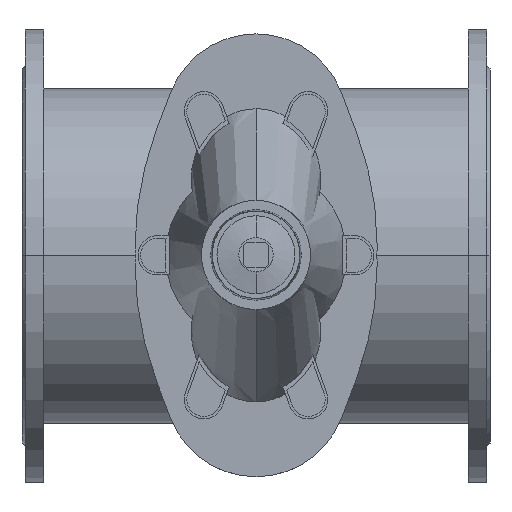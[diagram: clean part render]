
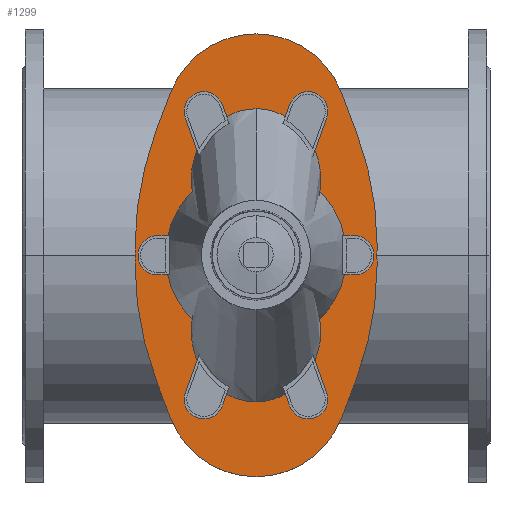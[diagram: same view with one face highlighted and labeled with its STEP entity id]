
A CAD part, top view. The second image highlights one B-rep face of the part: STEP entity #1299.
In plain terms, the highlighted planar face has unit normal (0, 0, 1).
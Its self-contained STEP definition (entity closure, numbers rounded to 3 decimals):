
#1299=ADVANCED_FACE('',(#2737),#2738,.T.);
#2737=FACE_OUTER_BOUND('',#4728,.T.);
#2738=PLANE('',#4729);
#4728=EDGE_LOOP('',(#7202,#7203,#7204,#7205,#7206,#7207,#7208,#7209,#7210,#7211,#7212,#7213,#7214,#7215));
#4729=AXIS2_PLACEMENT_3D('',#7216,#7217,#7218);
#7202=ORIENTED_EDGE('',*,*,#11351,.F.);
#7203=ORIENTED_EDGE('',*,*,#11352,.F.);
#7204=ORIENTED_EDGE('',*,*,#11353,.F.);
#7205=ORIENTED_EDGE('',*,*,#11354,.F.);
#7206=ORIENTED_EDGE('',*,*,#10963,.F.);
#7207=ORIENTED_EDGE('',*,*,#11355,.F.);
#7208=ORIENTED_EDGE('',*,*,#11356,.F.);
#7209=ORIENTED_EDGE('',*,*,#11357,.F.);
#7210=ORIENTED_EDGE('',*,*,#11358,.F.);
#7211=ORIENTED_EDGE('',*,*,#11359,.F.);
#7212=ORIENTED_EDGE('',*,*,#10929,.F.);
#7213=ORIENTED_EDGE('',*,*,#11360,.F.);
#7214=ORIENTED_EDGE('',*,*,#11361,.F.);
#7215=ORIENTED_EDGE('',*,*,#11362,.F.);
#7216=CARTESIAN_POINT('',(300.078,0.,504.0));
#7217=DIRECTION('',(0.0,0.0,1.0));
#7218=DIRECTION('',(1.0,0.0,0.0));
#10929=EDGE_CURVE('',#12941,#12944,#12945,.T.);
#10963=EDGE_CURVE('',#12998,#12994,#13000,.T.);
#11351=EDGE_CURVE('',#13653,#13654,#13655,.T.);
#11352=EDGE_CURVE('',#13656,#13653,#13657,.T.);
#11353=EDGE_CURVE('',#13658,#13656,#13659,.T.);
#11354=EDGE_CURVE('',#12994,#13658,#13660,.T.);
#11355=EDGE_CURVE('',#13661,#12998,#13662,.T.);
#11356=EDGE_CURVE('',#13663,#13661,#13664,.T.);
#11357=EDGE_CURVE('',#13665,#13663,#13666,.T.);
#11358=EDGE_CURVE('',#13667,#13665,#13668,.T.);
#11359=EDGE_CURVE('',#12944,#13667,#13669,.T.);
#11360=EDGE_CURVE('',#13670,#12941,#13671,.T.);
#11361=EDGE_CURVE('',#13672,#13670,#13673,.T.);
#11362=EDGE_CURVE('',#13654,#13672,#13674,.T.);
#12941=VERTEX_POINT('',#15713);
#12944=VERTEX_POINT('',#15717);
#12945=CIRCLE('',#15718,427.473);
#12994=VERTEX_POINT('',#15777);
#12998=VERTEX_POINT('',#15782);
#13000=CIRCLE('',#15785,408.709);
#13653=VERTEX_POINT('',#16608);
#13654=VERTEX_POINT('',#16609);
#13655=LINE('',#16610,#16611);
#13656=VERTEX_POINT('',#16612);
#13657=CIRCLE('',#16613,117.466);
#13658=VERTEX_POINT('',#16614);
#13659=LINE('',#16615,#16616);
#13660=CIRCLE('',#16617,408.709);
#13661=VERTEX_POINT('',#16618);
#13662=CIRCLE('',#16619,408.709);
#13663=VERTEX_POINT('',#16620);
#13664=CIRCLE('',#16621,408.709);
#13665=VERTEX_POINT('',#16622);
#13666=LINE('',#16623,#16624);
#13667=VERTEX_POINT('',#16625);
#13668=CIRCLE('',#16626,117.466);
#13669=LINE('',#16627,#16628);
#13670=VERTEX_POINT('',#16629);
#13671=CIRCLE('',#16630,427.473);
#13672=VERTEX_POINT('',#16631);
#13673=CIRCLE('',#16632,427.473);
#13674=CIRCLE('',#16633,427.473);
#15713=CARTESIAN_POINT('',(144.881,10.079,504.0));
#15717=CARTESIAN_POINT('',(172.378,160.917,504.0));
#15718=AXIS2_PLACEMENT_3D('',#18815,#18816,#18817);
#15777=CARTESIAN_POINT('',(455.216,-13.287,504.0));
#15782=CARTESIAN_POINT('',(455.,0.,504.0));
#15785=AXIS2_PLACEMENT_3D('',#18872,#18873,#18874);
#16608=CARTESIAN_POINT('',(190.09,-207.883,504.0));
#16609=CARTESIAN_POINT('',(172.378,-160.917,504.0));
#16610=CARTESIAN_POINT('',(172.378,-160.917,504.0));
#16611=VECTOR('',#19468,1.0);
#16612=CARTESIAN_POINT('',(409.91,-207.883,504.0));
#16613=AXIS2_PLACEMENT_3D('',#19469,#19470,#19471);
#16614=CARTESIAN_POINT('',(428.882,-157.621,504.0));
#16615=CARTESIAN_POINT('',(409.91,-207.883,504.0));
#16616=VECTOR('',#19472,1.0);
#16617=AXIS2_PLACEMENT_3D('',#19473,#19474,#19475);
#16618=CARTESIAN_POINT('',(455.216,13.287,504.0));
#16619=AXIS2_PLACEMENT_3D('',#19476,#19477,#19478);
#16620=CARTESIAN_POINT('',(428.882,157.621,504.0));
#16621=AXIS2_PLACEMENT_3D('',#19479,#19480,#19481);
#16622=CARTESIAN_POINT('',(409.91,207.883,504.0));
#16623=CARTESIAN_POINT('',(428.882,157.621,504.0));
#16624=VECTOR('',#19482,1.0);
#16625=CARTESIAN_POINT('',(190.09,207.883,504.0));
#16626=AXIS2_PLACEMENT_3D('',#19483,#19484,#19485);
#16627=CARTESIAN_POINT('',(190.09,207.883,504.0));
#16628=VECTOR('',#19486,1.0);
#16629=CARTESIAN_POINT('',(145.,0.,504.0));
#16630=AXIS2_PLACEMENT_3D('',#19487,#19488,#19489);
#16631=CARTESIAN_POINT('',(144.881,-10.079,504.0));
#16632=AXIS2_PLACEMENT_3D('',#19490,#19491,#19492);
#16633=AXIS2_PLACEMENT_3D('',#19493,#19494,#19495);
#18815=CARTESIAN_POINT('',(572.355,10.079,504.0));
#18816=DIRECTION('',(0.0,0.0,-1.0));
#18817=DIRECTION('',(1.0,0.0,0.0));
#18872=CARTESIAN_POINT('',(46.507,-13.287,504.0));
#18873=DIRECTION('',(0.0,0.0,-1.0));
#18874=DIRECTION('',(1.0,0.0,0.0));
#19468=DIRECTION('',(-0.353,0.936,0.0));
#19469=CARTESIAN_POINT('',(300.,-166.434,504.0));
#19470=DIRECTION('',(0.0,0.0,-1.0));
#19471=DIRECTION('',(1.0,0.0,0.0));
#19472=DIRECTION('',(-0.353,-0.936,-0.0));
#19473=CARTESIAN_POINT('',(46.507,-13.287,504.0));
#19474=DIRECTION('',(0.0,0.0,-1.0));
#19475=DIRECTION('',(1.0,0.0,0.0));
#19476=CARTESIAN_POINT('',(46.507,13.287,504.0));
#19477=DIRECTION('',(0.0,0.0,-1.0));
#19478=DIRECTION('',(1.0,0.0,0.0));
#19479=CARTESIAN_POINT('',(46.507,13.287,504.0));
#19480=DIRECTION('',(0.0,0.0,-1.0));
#19481=DIRECTION('',(1.0,0.0,0.0));
#19482=DIRECTION('',(0.353,-0.936,0.0));
#19483=CARTESIAN_POINT('',(300.,166.434,504.0));
#19484=DIRECTION('',(0.0,0.0,-1.0));
#19485=DIRECTION('',(1.0,0.0,0.0));
#19486=DIRECTION('',(0.353,0.936,0.0));
#19487=CARTESIAN_POINT('',(572.355,10.079,504.0));
#19488=DIRECTION('',(0.0,0.0,-1.0));
#19489=DIRECTION('',(1.0,0.0,0.0));
#19490=CARTESIAN_POINT('',(572.355,-10.079,504.0));
#19491=DIRECTION('',(0.0,0.0,-1.0));
#19492=DIRECTION('',(1.0,0.0,0.0));
#19493=CARTESIAN_POINT('',(572.355,-10.079,504.0));
#19494=DIRECTION('',(0.0,0.0,-1.0));
#19495=DIRECTION('',(1.0,0.0,0.0));
